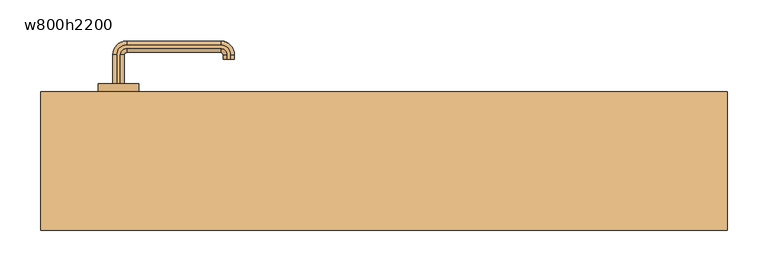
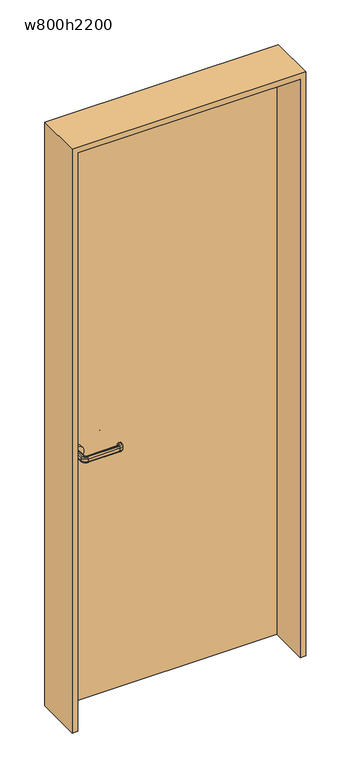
"""IFC4 building model written with IfcOpenShell, lengths in millimetres: door geometry, 片開き : w800h2200."""

from ifc_helpers import new_model, si_unit, point, frame, frame_2d, origin, origin_with_axes, place, context, project, spatial, polyline, circle_curve, ellipse_curve, trimmed, segment, composite_curve, outline, extrude, source, transform, mapped, element, save
from ifc_brep_helpers import plane_surface, cylinder_surface, revolved_surface, advanced_brep


def w800h2200_05deb988(model_context):
    return source(origin(), model_context, "Body", "SolidModel", [
        advanced_brep(
        [(-327.0, 95.0, 960.0), (-332.0, 95.0, 955.0), (-332.0, 95.0, 945.0477623), (-327.0, 95.0, 940.0477623), (-323.0, 95.0, 940.0477623), (-318.0, 95.0, 945.0477623), (-318.0, 95.0, 955.0), (-323.0, 95.0, 960.0), (-327.0, 130.0, 960.0), (-332.0, 130.0, 955.0), (-332.0, 130.0, 945.0477623), (-327.0, 130.0, 940.0477623), (-315.0, 142.0, 940.0477623), (-200.0, 142.0, 940.0477623), (-188.0, 130.0, 940.0477623), (-188.0, 125.0, 940.0477623), (-192.0, 125.0, 940.0477623), (-192.0, 130.0, 940.0477623), (-200.0, 138.0, 940.0477623), (-315.0, 138.0, 940.0477623), (-323.0, 130.0, 940.0477623), (-318.0, 130.0, 945.0477623), (-318.0, 130.0, 955.0), (-323.0, 130.0, 960.0), (-315.0, 138.0, 960.0), (-200.0, 138.0, 960.0), (-192.0, 130.0, 960.0), (-192.0, 125.0, 960.0), (-188.0, 125.0, 960.0), (-188.0, 130.0, 960.0), (-200.0, 142.0, 960.0), (-315.0, 142.0, 960.0), (-315.0, 147.0, 955.0), (-315.0, 147.0, 945.0477623), (-315.0, 133.0, 945.0477623), (-315.0, 133.0, 955.0), (-200.0, 147.0, 955.0), (-200.0, 147.0, 945.0477623), (-200.0, 133.0, 945.0477623), (-200.0, 133.0, 955.0), (-183.0, 130.0, 955.0), (-183.0, 130.0, 945.0477623), (-197.0, 130.0, 945.0477623), (-197.0, 130.0, 955.0), (-197.0, 125.0, 955.0), (-197.0, 125.0, 945.0477623), (-183.0, 125.0, 945.0477623), (-183.0, 125.0, 955.0)],
        [
            (0, 1, circle_curve(frame((-327.0, 95.0, 955.0), z_axis=(0.0, -1.0, 0.0), x_axis=(-1.0, 0.0, 0.0)), 5.0)),
            (1, 2),
            (2, 3, circle_curve(frame((-327.0, 95.0, 945.0477623), z_axis=(0.0, -1.0, 0.0), x_axis=(-1.0, 0.0, 0.0)), 5.0)),
            (3, 4),
            (4, 5, circle_curve(frame((-323.0, 95.0, 945.0477623), z_axis=(0.0, -1.0, 0.0), x_axis=(-1.0, 0.0, 0.0)), 5.0)),
            (5, 6),
            (6, 7, circle_curve(frame((-323.0, 95.0, 955.0), z_axis=(0.0, -1.0, 0.0), x_axis=(-1.0, 0.0, 0.0)), 5.0)),
            (7, 0),
            (0, 8),
            (8, 9, circle_curve(frame((-327.0, 130.0, 955.0), z_axis=(0.0, -1.0, 0.0), x_axis=(-1.0, 0.0, 0.0)), 5.0)),
            (9, 1),
            (9, 10),
            (10, 2),
            (10, 11, circle_curve(frame((-327.0, 130.0, 945.0477623), z_axis=(0.0, -1.0, 0.0), x_axis=(-1.0, 0.0, 0.0)), 5.0)),
            (11, 3),
            (11, 12, circle_curve(frame((-315.0, 130.0, 940.0477623), z_axis=(0.0, 0.0, -1.0), x_axis=(-1.0, 0.0, 0.0)), 12.0)),
            (12, 13),
            (13, 14, circle_curve(frame((-200.0, 130.0, 940.0477623), z_axis=(0.0, 0.0, -1.0), x_axis=(0.0, 1.0, 0.0)), 12.0)),
            (14, 15),
            (15, 16),
            (16, 17),
            (17, 18, circle_curve(frame((-200.0, 130.0, 940.0477623), z_axis=(0.0, 0.0, 1.0), x_axis=(0.0, 1.0, 0.0)), 8.0)),
            (18, 19),
            (19, 20, circle_curve(frame((-315.0, 130.0, 940.0477623), z_axis=(0.0, 0.0, 1.0), x_axis=(-1.0, 0.0, 0.0)), 8.0)),
            (20, 4),
            (20, 21, circle_curve(frame((-323.0, 130.0, 945.0477623), z_axis=(0.0, -1.0, 0.0), x_axis=(-1.0, 0.0, 0.0)), 5.0)),
            (21, 5),
            (21, 22),
            (22, 6),
            (22, 23, circle_curve(frame((-323.0, 130.0, 955.0), z_axis=(0.0, -1.0, 0.0), x_axis=(-1.0, 0.0, 0.0)), 5.0)),
            (23, 7),
            (23, 24, circle_curve(frame((-315.0, 130.0, 960.0), z_axis=(0.0, 0.0, -1.0), x_axis=(-1.0, 0.0, 0.0)), 8.0)),
            (24, 25),
            (25, 26, circle_curve(frame((-200.0, 130.0, 960.0), z_axis=(0.0, 0.0, -1.0), x_axis=(0.0, 1.0, 0.0)), 8.0)),
            (26, 27),
            (27, 28),
            (28, 29),
            (29, 30, circle_curve(frame((-200.0, 130.0, 960.0), z_axis=(0.0, 0.0, 1.0), x_axis=(0.0, 1.0, 0.0)), 12.0)),
            (30, 31),
            (31, 8, circle_curve(frame((-315.0, 130.0, 960.0), z_axis=(0.0, 0.0, 1.0), x_axis=(-1.0, 0.0, 0.0)), 12.0)),
            (32, 9, circle_curve(frame((-315.0, 130.0, 955.0), z_axis=(0.0, 0.0, 1.0), x_axis=(-1.0, 0.0, 0.0)), 17.0)),
            (31, 32, circle_curve(frame((-315.0, 142.0, 955.0), z_axis=(-1.0, 0.0, 0.0), x_axis=(0.0, 1.0, 0.0)), 5.0)),
            (33, 10, circle_curve(frame((-315.0, 130.0, 945.0477623), z_axis=(0.0, 0.0, 1.0), x_axis=(-1.0, 0.0, 0.0)), 17.0)),
            (32, 33),
            (33, 12, circle_curve(frame((-315.0, 142.0, 945.0477623), z_axis=(-1.0, 0.0, 0.0), x_axis=(0.0, 1.0, 0.0)), 5.0)),
            (34, 21, circle_curve(frame((-315.0, 130.0, 945.0477623), z_axis=(0.0, 0.0, 1.0), x_axis=(-1.0, 0.0, 0.0)), 3.0)),
            (19, 34, circle_curve(frame((-315.0, 138.0, 945.0477623), z_axis=(-1.0, 0.0, 0.0), x_axis=(0.0, 1.0, 0.0)), 5.0)),
            (35, 22, circle_curve(frame((-315.0, 130.0, 955.0), z_axis=(0.0, 0.0, 1.0), x_axis=(-1.0, 0.0, 0.0)), 3.0)),
            (34, 35),
            (35, 24, circle_curve(frame((-315.0, 138.0, 955.0), z_axis=(-1.0, 0.0, 0.0), x_axis=(0.0, 1.0, 0.0)), 5.0)),
            (30, 36, circle_curve(frame((-200.0, 142.0, 955.0), z_axis=(-1.0, 0.0, 0.0), x_axis=(0.0, 1.0, 0.0)), 5.0)),
            (36, 32),
            (36, 37),
            (37, 33),
            (37, 13, circle_curve(frame((-200.0, 142.0, 945.0477623), z_axis=(-1.0, 0.0, 0.0), x_axis=(0.0, 1.0, 0.0)), 5.0)),
            (18, 38, circle_curve(frame((-200.0, 138.0, 945.0477623), z_axis=(-1.0, 0.0, 0.0), x_axis=(0.0, 1.0, 0.0)), 5.0)),
            (38, 34),
            (38, 39),
            (39, 35),
            (39, 25, circle_curve(frame((-200.0, 138.0, 955.0), z_axis=(-1.0, 0.0, 0.0), x_axis=(0.0, 1.0, 0.0)), 5.0)),
            (40, 36, circle_curve(frame((-200.0, 130.0, 955.0), z_axis=(0.0, 0.0, 1.0), x_axis=(0.0, 1.0, 0.0)), 17.0)),
            (29, 40, circle_curve(frame((-188.0, 130.0, 955.0), z_axis=(0.0, 1.0, 0.0), x_axis=(1.0, 0.0, 0.0)), 5.0)),
            (41, 37, circle_curve(frame((-200.0, 130.0, 945.0477623), z_axis=(0.0, 0.0, 1.0), x_axis=(0.0, 1.0, 0.0)), 17.0)),
            (40, 41),
            (41, 14, circle_curve(frame((-188.0, 130.0, 945.0477623), z_axis=(0.0, 1.0, 0.0), x_axis=(1.0, 0.0, 0.0)), 5.0)),
            (42, 38, circle_curve(frame((-200.0, 130.0, 945.0477623), z_axis=(0.0, 0.0, 1.0), x_axis=(0.0, 1.0, 0.0)), 3.0)),
            (17, 42, circle_curve(frame((-192.0, 130.0, 945.0477623), z_axis=(0.0, 1.0, 0.0), x_axis=(1.0, 0.0, 0.0)), 5.0)),
            (43, 39, circle_curve(frame((-200.0, 130.0, 955.0), z_axis=(0.0, 0.0, 1.0), x_axis=(0.0, 1.0, 0.0)), 3.0)),
            (42, 43),
            (43, 26, circle_curve(frame((-192.0, 130.0, 955.0), z_axis=(0.0, 1.0, 0.0), x_axis=(1.0, 0.0, 0.0)), 5.0)),
            (27, 44, circle_curve(frame((-192.0, 125.0, 955.0), z_axis=(0.0, -1.0, 0.0), x_axis=(1.0, 0.0, 0.0)), 5.0)),
            (44, 45),
            (45, 16, circle_curve(frame((-192.0, 125.0, 945.0477623), z_axis=(0.0, -1.0, 0.0), x_axis=(1.0, 0.0, 0.0)), 5.0)),
            (15, 46, circle_curve(frame((-188.0, 125.0, 945.0477623), z_axis=(0.0, -1.0, 0.0), x_axis=(1.0, 0.0, 0.0)), 5.0)),
            (46, 47),
            (47, 28, circle_curve(frame((-188.0, 125.0, 955.0), z_axis=(0.0, -1.0, 0.0), x_axis=(1.0, 0.0, 0.0)), 5.0)),
            (47, 40),
            (46, 41),
            (45, 42),
            (44, 43),
        ],
        [
            plane_surface(frame((-335.198039, 95.0, 950.0), z_axis=(0.0, -1.0, 0.0), x_axis=(0.0, 0.0, 1.0))),
            cylinder_surface(frame((-327.0, 95.0, 955.0), z_axis=(0.0, -1.0, 0.0), x_axis=(-1.0, 0.0, 0.0)), 5.0),
            plane_surface(frame((-332.0, 95.0, 955.0), z_axis=(-1.0, 0.0, 0.0), x_axis=(0.0, 1.0, 0.0))),
            cylinder_surface(frame((-327.0, 95.0, 945.0477623), z_axis=(0.0, -1.0, 0.0), x_axis=(-1.0, 0.0, 0.0)), 5.0),
            plane_surface(frame((-327.0, 95.0, 940.0477623), z_axis=(0.0, 0.0, -1.0), x_axis=(0.0, 1.0, 0.0))),
            cylinder_surface(frame((-323.0, 95.0, 945.0477623), z_axis=(0.0, -1.0, 0.0), x_axis=(-1.0, 0.0, 0.0)), 5.0),
            plane_surface(frame((-318.0, 95.0, 945.0477623), z_axis=(1.0, 0.0, 0.0), x_axis=(0.0, 1.0, 0.0))),
            cylinder_surface(frame((-323.0, 95.0, 955.0), z_axis=(0.0, -1.0, 0.0), x_axis=(-1.0, 0.0, 0.0)), 5.0),
            plane_surface(frame((-323.0, 95.0, 960.0), z_axis=(0.0, 0.0, 1.0), x_axis=(0.0, 1.0, 0.0))),
            revolved_surface(trimmed(ellipse_curve(frame((-327.0, 130.0, 955.0), z_axis=(0.0, -1.0, 0.0), x_axis=(-1.0, 0.0, 0.0)), 5.0, 5.0), [point((-327.0, 130.0, 960.0))], [point((-332.0, 130.0, 955.0))], True, "CARTESIAN"), (-315.0, 130.0, 950.0), (0.0, 0.0, -1.0)),
            cylinder_surface(frame((-315.0, 130.0, 950.0), z_axis=(0.0, 0.0, -1.0), x_axis=(-1.0, 0.0, 0.0)), 17.0),
            revolved_surface(trimmed(ellipse_curve(frame((-327.0, 130.0, 945.0477623), z_axis=(0.0, -1.0, 0.0), x_axis=(-1.0, 0.0, 0.0)), 5.0, 5.0), [point((-332.0, 130.0, 945.0477623))], [point((-327.0, 130.0, 940.0477623))], True, "CARTESIAN"), (-315.0, 130.0, 950.0), (0.0, 0.0, -1.0)),
            revolved_surface(trimmed(ellipse_curve(frame((-323.0, 130.0, 945.0477623), z_axis=(0.0, -1.0, 0.0), x_axis=(-1.0, 0.0, 0.0)), 5.0, 5.0), [point((-323.0, 130.0, 940.0477623))], [point((-318.0, 130.0, 945.0477623))], True, "CARTESIAN"), (-315.0, 130.0, 950.0), (0.0, 0.0, -1.0)),
            revolved_surface(polyline([(-318.0, 130.0, 945.0477623), (-318.0, 130.0, 955.0)]), (-315.0, 130.0, 950.0), (0.0, 0.0, -1.0)),
            revolved_surface(trimmed(ellipse_curve(frame((-323.0, 130.0, 955.0), z_axis=(0.0, -1.0, 0.0), x_axis=(-1.0, 0.0, 0.0)), 5.0, 5.0), [point((-318.0, 130.0, 955.0))], [point((-323.0, 130.0, 960.0))], True, "CARTESIAN"), (-315.0, 130.0, 950.0), (0.0, 0.0, -1.0)),
            cylinder_surface(frame((-315.0, 142.0, 955.0), z_axis=(-1.0, 0.0, 0.0), x_axis=(0.0, 1.0, 0.0)), 5.0),
            plane_surface(frame((-315.0, 147.0, 955.0), z_axis=(0.0, 1.0, 0.0), x_axis=(1.0, 0.0, 0.0))),
            cylinder_surface(frame((-315.0, 142.0, 945.0477623), z_axis=(-1.0, 0.0, 0.0), x_axis=(0.0, 1.0, 0.0)), 5.0),
            cylinder_surface(frame((-315.0, 138.0, 945.0477623), z_axis=(-1.0, 0.0, 0.0), x_axis=(0.0, 1.0, 0.0)), 5.0),
            plane_surface(frame((-315.0, 133.0, 945.0477623), z_axis=(0.0, -1.0, 0.0), x_axis=(1.0, 0.0, 0.0))),
            cylinder_surface(frame((-315.0, 138.0, 955.0), z_axis=(-1.0, 0.0, 0.0), x_axis=(0.0, 1.0, 0.0)), 5.0),
            revolved_surface(trimmed(ellipse_curve(frame((-200.0, 142.0, 955.0), z_axis=(-1.0, 0.0, 0.0), x_axis=(0.0, 1.0, 0.0)), 5.0, 5.0), [point((-200.0, 142.0, 960.0))], [point((-200.0, 147.0, 955.0))], True, "CARTESIAN"), (-200.0, 130.0, 950.0), (0.0, 0.0, -1.0)),
            cylinder_surface(frame((-200.0, 130.0, 950.0), z_axis=(0.0, 0.0, -1.0), x_axis=(0.0, 1.0, 0.0)), 17.0),
            revolved_surface(trimmed(ellipse_curve(frame((-200.0, 142.0, 945.0477623), z_axis=(-1.0, 0.0, 0.0), x_axis=(0.0, 1.0, 0.0)), 5.0, 5.0), [point((-200.0, 147.0, 945.0477623))], [point((-200.0, 142.0, 940.0477623))], True, "CARTESIAN"), (-200.0, 130.0, 950.0), (0.0, 0.0, -1.0)),
            revolved_surface(trimmed(ellipse_curve(frame((-200.0, 138.0, 945.0477623), z_axis=(-1.0, 0.0, 0.0), x_axis=(0.0, 1.0, 0.0)), 5.0, 5.0), [point((-200.0, 138.0, 940.0477623))], [point((-200.0, 133.0, 945.0477623))], True, "CARTESIAN"), (-200.0, 130.0, 950.0), (0.0, 0.0, -1.0)),
            revolved_surface(polyline([(-200.0, 133.0, 945.0477623), (-200.0, 133.0, 955.0)]), (-200.0, 130.0, 950.0), (0.0, 0.0, -1.0)),
            revolved_surface(trimmed(ellipse_curve(frame((-200.0, 138.0, 955.0), z_axis=(-1.0, 0.0, 0.0), x_axis=(0.0, 1.0, 0.0)), 5.0, 5.0), [point((-200.0, 133.0, 955.0))], [point((-200.0, 138.0, 960.0))], True, "CARTESIAN"), (-200.0, 130.0, 950.0), (0.0, 0.0, -1.0)),
            plane_surface(frame((-200.198039, 125.0, 950.0), z_axis=(0.0, -1.0, 0.0), x_axis=(0.0, 0.0, -1.0))),
            cylinder_surface(frame((-188.0, 130.0, 955.0), z_axis=(0.0, 1.0, 0.0), x_axis=(1.0, 0.0, 0.0)), 5.0),
            plane_surface(frame((-183.0, 130.0, 955.0), z_axis=(1.0, 0.0, 0.0), x_axis=(0.0, -1.0, 0.0))),
            cylinder_surface(frame((-188.0, 130.0, 945.0477623), z_axis=(0.0, 1.0, 0.0), x_axis=(1.0, 0.0, 0.0)), 5.0),
            cylinder_surface(frame((-192.0, 130.0, 945.0477623), z_axis=(0.0, 1.0, 0.0), x_axis=(1.0, 0.0, 0.0)), 5.0),
            plane_surface(frame((-197.0, 130.0, 945.0477623), z_axis=(-1.0, 0.0, 0.0), x_axis=(0.0, -1.0, 0.0))),
            cylinder_surface(frame((-192.0, 130.0, 955.0), z_axis=(0.0, 1.0, 0.0), x_axis=(1.0, 0.0, 0.0)), 5.0),
        ],
        [
            (0, [[1, 2, 3, 4, 5, 6, 7, 8]]),
            (1, [[-1, 9, 10, 11]]),
            (2, [[-2, -11, 12, 13]]),
            (3, [[-3, -13, 14, 15]]),
            (4, [[-4, -15, 16, 17, 18, 19, 20, 21, 22, 23, 24, 25]]),
            (5, [[-5, -25, 26, 27]]),
            (6, [[-6, -27, 28, 29]]),
            (7, [[-7, -29, 30, 31]]),
            (8, [[-8, -31, 32, 33, 34, 35, 36, 37, 38, 39, 40, -9]]),
            (9, [[41, -10, -40, 42]]),
            (10, [[43, -12, -41, 44]]),
            (11, [[-16, -14, -43, 45]]),
            (12, [[46, -26, -24, 47]]),
            (13, [[48, -28, -46, 49]]),
            (14, [[-32, -30, -48, 50]]),
            (15, [[-42, -39, 51, 52]]),
            (16, [[-44, -52, 53, 54]]),
            (17, [[-45, -54, 55, -17]]),
            (18, [[-47, -23, 56, 57]]),
            (19, [[-49, -57, 58, 59]]),
            (20, [[-50, -59, 60, -33]]),
            (21, [[61, -51, -38, 62]]),
            (22, [[63, -53, -61, 64]]),
            (23, [[-18, -55, -63, 65]]),
            (24, [[66, -56, -22, 67]]),
            (25, [[68, -58, -66, 69]]),
            (26, [[-34, -60, -68, 70]]),
            (27, [[-36, 71, 72, 73, -20, 74, 75, 76]]),
            (28, [[-62, -37, -76, 77]]),
            (29, [[-64, -77, -75, 78]]),
            (30, [[-65, -78, -74, -19]]),
            (31, [[-67, -21, -73, 79]]),
            (32, [[-69, -79, -72, 80]]),
            (33, [[-70, -80, -71, -35]]),
        ],
    ),
        advanced_brep(
        [(-323.0, 50.0, 940.0), (-327.0, 50.0, 940.0), (-332.0, 50.0, 945.0), (-332.0, 50.0, 955.0), (-327.0, 50.0, 960.0), (-323.0, 50.0, 960.0), (-318.0, 50.0, 955.0), (-318.0, 50.0, 945.0), (-323.0, 15.0, 940.0), (-315.0, 7.0, 940.0), (-200.0, 7.0, 940.0), (-192.0, 15.0, 940.0), (-192.0, 20.0, 940.0), (-188.0, 20.0, 940.0), (-188.0, 15.0, 940.0), (-200.0, 3.0, 940.0), (-315.0, 3.0, 940.0), (-327.0, 15.0, 940.0), (-332.0, 15.0, 945.0), (-332.0, 15.0, 955.0), (-327.0, 15.0, 960.0), (-315.0, 3.0, 960.0), (-200.0, 3.0, 960.0), (-188.0, 15.0, 960.0), (-188.0, 20.0, 960.0), (-192.0, 20.0, 960.0), (-192.0, 15.0, 960.0), (-200.0, 7.0, 960.0), (-315.0, 7.0, 960.0), (-323.0, 15.0, 960.0), (-318.0, 15.0, 955.0), (-318.0, 15.0, 945.0), (-315.0, -2.0, 945.0), (-315.0, -2.0, 955.0), (-315.0, 12.0, 955.0), (-315.0, 12.0, 945.0), (-200.0, -2.0, 945.0), (-200.0, -2.0, 955.0), (-200.0, 12.0, 955.0), (-200.0, 12.0, 945.0), (-183.0, 15.0, 945.0), (-183.0, 15.0, 955.0), (-197.0, 15.0, 955.0), (-197.0, 15.0, 945.0), (-197.0, 20.0, 945.0), (-197.0, 20.0, 955.0), (-183.0, 20.0, 955.0), (-183.0, 20.0, 945.0)],
        [
            (0, 1),
            (1, 2, circle_curve(frame((-327.0, 50.0, 945.0), z_axis=(0.0, 1.0, 0.0), x_axis=(1.0, 0.0, 0.0)), 5.0)),
            (2, 3),
            (3, 4, circle_curve(frame((-327.0, 50.0, 955.0), z_axis=(0.0, 1.0, 0.0), x_axis=(1.0, 0.0, 0.0)), 5.0)),
            (4, 5),
            (5, 6, circle_curve(frame((-323.0, 50.0, 955.0), z_axis=(0.0, 1.0, 0.0), x_axis=(1.0, 0.0, 0.0)), 5.0)),
            (6, 7),
            (7, 0, circle_curve(frame((-323.0, 50.0, 945.0), z_axis=(0.0, 1.0, 0.0), x_axis=(1.0, 0.0, 0.0)), 5.0)),
            (0, 8),
            (8, 9, circle_curve(frame((-315.0, 15.0, 940.0), z_axis=(0.0, 0.0, 1.0), x_axis=(-1.0, 0.0, 0.0)), 8.0)),
            (9, 10),
            (10, 11, circle_curve(frame((-200.0, 15.0, 940.0), z_axis=(0.0, 0.0, 1.0), x_axis=(0.0, -1.0, 0.0)), 8.0)),
            (11, 12),
            (12, 13),
            (13, 14),
            (14, 15, circle_curve(frame((-200.0, 15.0, 940.0), z_axis=(0.0, 0.0, -1.0), x_axis=(0.0, -1.0, 0.0)), 12.0)),
            (15, 16),
            (16, 17, circle_curve(frame((-315.0, 15.0, 940.0), z_axis=(0.0, 0.0, -1.0), x_axis=(-1.0, 0.0, 0.0)), 12.0)),
            (17, 1),
            (17, 18, circle_curve(frame((-327.0, 15.0, 945.0), z_axis=(0.0, 1.0, 0.0), x_axis=(1.0, 0.0, 0.0)), 5.0)),
            (18, 2),
            (18, 19),
            (19, 3),
            (19, 20, circle_curve(frame((-327.0, 15.0, 955.0), z_axis=(0.0, 1.0, 0.0), x_axis=(1.0, 0.0, 0.0)), 5.0)),
            (20, 4),
            (20, 21, circle_curve(frame((-315.0, 15.0, 960.0), z_axis=(0.0, 0.0, 1.0), x_axis=(-1.0, 0.0, 0.0)), 12.0)),
            (21, 22),
            (22, 23, circle_curve(frame((-200.0, 15.0, 960.0), z_axis=(0.0, 0.0, 1.0), x_axis=(0.0, -1.0, 0.0)), 12.0)),
            (23, 24),
            (24, 25),
            (25, 26),
            (26, 27, circle_curve(frame((-200.0, 15.0, 960.0), z_axis=(0.0, 0.0, -1.0), x_axis=(0.0, -1.0, 0.0)), 8.0)),
            (27, 28),
            (28, 29, circle_curve(frame((-315.0, 15.0, 960.0), z_axis=(0.0, 0.0, -1.0), x_axis=(-1.0, 0.0, 0.0)), 8.0)),
            (29, 5),
            (29, 30, circle_curve(frame((-323.0, 15.0, 955.0), z_axis=(0.0, 1.0, 0.0), x_axis=(1.0, 0.0, 0.0)), 5.0)),
            (30, 6),
            (30, 31),
            (31, 7),
            (31, 8, circle_curve(frame((-323.0, 15.0, 945.0), z_axis=(0.0, 1.0, 0.0), x_axis=(1.0, 0.0, 0.0)), 5.0)),
            (32, 18, circle_curve(frame((-315.0, 15.0, 945.0), z_axis=(0.0, 0.0, -1.0), x_axis=(-1.0, 0.0, 0.0)), 17.0)),
            (16, 32, circle_curve(frame((-315.0, 3.0, 945.0), z_axis=(-1.0, 0.0, 0.0), x_axis=(0.0, 1.0, 0.0)), 5.0)),
            (33, 19, circle_curve(frame((-315.0, 15.0, 955.0), z_axis=(0.0, 0.0, -1.0), x_axis=(-1.0, 0.0, 0.0)), 17.0)),
            (32, 33),
            (33, 21, circle_curve(frame((-315.0, 3.0, 955.0), z_axis=(-1.0, 0.0, 0.0), x_axis=(0.0, 1.0, 0.0)), 5.0)),
            (34, 30, circle_curve(frame((-315.0, 15.0, 955.0), z_axis=(0.0, 0.0, -1.0), x_axis=(-1.0, 0.0, 0.0)), 3.0)),
            (28, 34, circle_curve(frame((-315.0, 7.0, 955.0), z_axis=(-1.0, 0.0, 0.0), x_axis=(0.0, 1.0, 0.0)), 5.0)),
            (35, 31, circle_curve(frame((-315.0, 15.0, 945.0), z_axis=(0.0, 0.0, -1.0), x_axis=(-1.0, 0.0, 0.0)), 3.0)),
            (34, 35),
            (35, 9, circle_curve(frame((-315.0, 7.0, 945.0), z_axis=(-1.0, 0.0, 0.0), x_axis=(0.0, 1.0, 0.0)), 5.0)),
            (15, 36, circle_curve(frame((-200.0, 3.0, 945.0), z_axis=(-1.0, 0.0, 0.0), x_axis=(0.0, 1.0, 0.0)), 5.0)),
            (36, 32),
            (36, 37),
            (37, 33),
            (37, 22, circle_curve(frame((-200.0, 3.0, 955.0), z_axis=(-1.0, 0.0, 0.0), x_axis=(0.0, 1.0, 0.0)), 5.0)),
            (27, 38, circle_curve(frame((-200.0, 7.0, 955.0), z_axis=(-1.0, 0.0, 0.0), x_axis=(0.0, 1.0, 0.0)), 5.0)),
            (38, 34),
            (38, 39),
            (39, 35),
            (39, 10, circle_curve(frame((-200.0, 7.0, 945.0), z_axis=(-1.0, 0.0, 0.0), x_axis=(0.0, 1.0, 0.0)), 5.0)),
            (40, 36, circle_curve(frame((-200.0, 15.0, 945.0), z_axis=(0.0, 0.0, -1.0), x_axis=(0.0, -1.0, 0.0)), 17.0)),
            (14, 40, circle_curve(frame((-188.0, 15.0, 945.0), z_axis=(0.0, -1.0, 0.0), x_axis=(-1.0, 0.0, 0.0)), 5.0)),
            (41, 37, circle_curve(frame((-200.0, 15.0, 955.0), z_axis=(0.0, 0.0, -1.0), x_axis=(0.0, -1.0, 0.0)), 17.0)),
            (40, 41),
            (41, 23, circle_curve(frame((-188.0, 15.0, 955.0), z_axis=(0.0, -1.0, 0.0), x_axis=(-1.0, 0.0, 0.0)), 5.0)),
            (42, 38, circle_curve(frame((-200.0, 15.0, 955.0), z_axis=(0.0, 0.0, -1.0), x_axis=(0.0, -1.0, 0.0)), 3.0)),
            (26, 42, circle_curve(frame((-192.0, 15.0, 955.0), z_axis=(0.0, -1.0, 0.0), x_axis=(-1.0, 0.0, 0.0)), 5.0)),
            (43, 39, circle_curve(frame((-200.0, 15.0, 945.0), z_axis=(0.0, 0.0, -1.0), x_axis=(0.0, -1.0, 0.0)), 3.0)),
            (42, 43),
            (43, 11, circle_curve(frame((-192.0, 15.0, 945.0), z_axis=(0.0, -1.0, 0.0), x_axis=(-1.0, 0.0, 0.0)), 5.0)),
            (12, 44, circle_curve(frame((-192.0, 20.0, 945.0), z_axis=(0.0, 1.0, 0.0), x_axis=(-1.0, 0.0, 0.0)), 5.0)),
            (44, 45),
            (45, 25, circle_curve(frame((-192.0, 20.0, 955.0), z_axis=(0.0, 1.0, 0.0), x_axis=(-1.0, 0.0, 0.0)), 5.0)),
            (24, 46, circle_curve(frame((-188.0, 20.0, 955.0), z_axis=(0.0, 1.0, 0.0), x_axis=(-1.0, 0.0, 0.0)), 5.0)),
            (46, 47),
            (47, 13, circle_curve(frame((-188.0, 20.0, 945.0), z_axis=(0.0, 1.0, 0.0), x_axis=(-1.0, 0.0, 0.0)), 5.0)),
            (47, 40),
            (46, 41),
            (45, 42),
            (44, 43),
        ],
        [
            plane_surface(frame((-335.198039, 50.0, 950.0), z_axis=(0.0, 1.0, 0.0), x_axis=(0.0, 0.0, -1.0))),
            plane_surface(frame((-323.0, 50.0, 940.0), z_axis=(0.0, 0.0, -1.0), x_axis=(0.0, -1.0, 0.0))),
            cylinder_surface(frame((-327.0, 50.0, 945.0), z_axis=(0.0, 1.0, 0.0), x_axis=(1.0, 0.0, 0.0)), 5.0),
            plane_surface(frame((-332.0, 50.0, 945.0), z_axis=(-1.0, 0.0, 0.0), x_axis=(0.0, -1.0, 0.0))),
            cylinder_surface(frame((-327.0, 50.0, 955.0), z_axis=(0.0, 1.0, 0.0), x_axis=(1.0, 0.0, 0.0)), 5.0),
            plane_surface(frame((-327.0, 50.0, 960.0), z_axis=(0.0, 0.0, 1.0), x_axis=(0.0, -1.0, 0.0))),
            cylinder_surface(frame((-323.0, 50.0, 955.0), z_axis=(0.0, 1.0, 0.0), x_axis=(1.0, 0.0, 0.0)), 5.0),
            plane_surface(frame((-318.0, 50.0, 955.0), z_axis=(1.0, 0.0, 0.0), x_axis=(0.0, -1.0, 0.0))),
            cylinder_surface(frame((-323.0, 50.0, 945.0), z_axis=(0.0, 1.0, 0.0), x_axis=(1.0, 0.0, 0.0)), 5.0),
            revolved_surface(trimmed(ellipse_curve(frame((-327.0, 15.0, 945.0), z_axis=(0.0, 1.0, 0.0), x_axis=(1.0, 0.0, 0.0)), 5.0, 5.0), [point((-327.0, 15.0, 940.0))], [point((-332.0, 15.0, 945.0))], True, "CARTESIAN"), (-315.0, 15.0, 950.0), (0.0, 0.0, 1.0)),
            cylinder_surface(frame((-315.0, 15.0, 950.0), z_axis=(0.0, 0.0, 1.0), x_axis=(-1.0, 0.0, 0.0)), 17.0),
            revolved_surface(trimmed(ellipse_curve(frame((-327.0, 15.0, 955.0), z_axis=(0.0, 1.0, 0.0), x_axis=(1.0, 0.0, 0.0)), 5.0, 5.0), [point((-332.0, 15.0, 955.0))], [point((-327.0, 15.0, 960.0))], True, "CARTESIAN"), (-315.0, 15.0, 950.0), (0.0, 0.0, 1.0)),
            revolved_surface(trimmed(ellipse_curve(frame((-323.0, 15.0, 955.0), z_axis=(0.0, 1.0, 0.0), x_axis=(1.0, 0.0, 0.0)), 5.0, 5.0), [point((-323.0, 15.0, 960.0))], [point((-318.0, 15.0, 955.0))], True, "CARTESIAN"), (-315.0, 15.0, 950.0), (0.0, 0.0, 1.0)),
            revolved_surface(polyline([(-318.0, 15.0, 955.0), (-318.0, 15.0, 945.0)]), (-315.0, 15.0, 950.0), (0.0, 0.0, 1.0)),
            revolved_surface(trimmed(ellipse_curve(frame((-323.0, 15.0, 945.0), z_axis=(0.0, 1.0, 0.0), x_axis=(1.0, 0.0, 0.0)), 5.0, 5.0), [point((-318.0, 15.0, 945.0))], [point((-323.0, 15.0, 940.0))], True, "CARTESIAN"), (-315.0, 15.0, 950.0), (0.0, 0.0, 1.0)),
            cylinder_surface(frame((-315.0, 3.0, 945.0), z_axis=(-1.0, 0.0, 0.0), x_axis=(0.0, 1.0, 0.0)), 5.0),
            plane_surface(frame((-315.0, -2.0, 945.0), z_axis=(0.0, -1.0, 0.0), x_axis=(1.0, 0.0, 0.0))),
            cylinder_surface(frame((-315.0, 3.0, 955.0), z_axis=(-1.0, 0.0, 0.0), x_axis=(0.0, 1.0, 0.0)), 5.0),
            cylinder_surface(frame((-315.0, 7.0, 955.0), z_axis=(-1.0, 0.0, 0.0), x_axis=(0.0, 1.0, 0.0)), 5.0),
            plane_surface(frame((-315.0, 12.0, 955.0), z_axis=(0.0, 1.0, 0.0), x_axis=(1.0, 0.0, 0.0))),
            cylinder_surface(frame((-315.0, 7.0, 945.0), z_axis=(-1.0, 0.0, 0.0), x_axis=(0.0, 1.0, 0.0)), 5.0),
            revolved_surface(trimmed(ellipse_curve(frame((-200.0, 3.0, 945.0), z_axis=(-1.0, 0.0, 0.0), x_axis=(0.0, 1.0, 0.0)), 5.0, 5.0), [point((-200.0, 3.0, 940.0))], [point((-200.0, -2.0, 945.0))], True, "CARTESIAN"), (-200.0, 15.0, 950.0), (0.0, 0.0, 1.0)),
            cylinder_surface(frame((-200.0, 15.0, 950.0), z_axis=(0.0, 0.0, 1.0), x_axis=(0.0, -1.0, 0.0)), 17.0),
            revolved_surface(trimmed(ellipse_curve(frame((-200.0, 3.0, 955.0), z_axis=(-1.0, 0.0, 0.0), x_axis=(0.0, 1.0, 0.0)), 5.0, 5.0), [point((-200.0, -2.0, 955.0))], [point((-200.0, 3.0, 960.0))], True, "CARTESIAN"), (-200.0, 15.0, 950.0), (0.0, 0.0, 1.0)),
            revolved_surface(trimmed(ellipse_curve(frame((-200.0, 7.0, 955.0), z_axis=(-1.0, 0.0, 0.0), x_axis=(0.0, 1.0, 0.0)), 5.0, 5.0), [point((-200.0, 7.0, 960.0))], [point((-200.0, 12.0, 955.0))], True, "CARTESIAN"), (-200.0, 15.0, 950.0), (0.0, 0.0, 1.0)),
            revolved_surface(polyline([(-200.0, 12.0, 955.0), (-200.0, 12.0, 945.0)]), (-200.0, 15.0, 950.0), (0.0, 0.0, 1.0)),
            revolved_surface(trimmed(ellipse_curve(frame((-200.0, 7.0, 945.0), z_axis=(-1.0, 0.0, 0.0), x_axis=(0.0, 1.0, 0.0)), 5.0, 5.0), [point((-200.0, 12.0, 945.0))], [point((-200.0, 7.0, 940.0))], True, "CARTESIAN"), (-200.0, 15.0, 950.0), (0.0, 0.0, 1.0)),
            plane_surface(frame((-200.198039, 20.0, 950.0), z_axis=(0.0, 1.0, 0.0), x_axis=(0.0, 0.0, 1.0))),
            cylinder_surface(frame((-188.0, 15.0, 945.0), z_axis=(0.0, -1.0, 0.0), x_axis=(-1.0, 0.0, 0.0)), 5.0),
            plane_surface(frame((-183.0, 15.0, 945.0), z_axis=(1.0, 0.0, 0.0), x_axis=(0.0, 1.0, 0.0))),
            cylinder_surface(frame((-188.0, 15.0, 955.0), z_axis=(0.0, -1.0, 0.0), x_axis=(-1.0, 0.0, 0.0)), 5.0),
            cylinder_surface(frame((-192.0, 15.0, 955.0), z_axis=(0.0, -1.0, 0.0), x_axis=(-1.0, 0.0, 0.0)), 5.0),
            plane_surface(frame((-197.0, 15.0, 955.0), z_axis=(-1.0, 0.0, 0.0), x_axis=(0.0, 1.0, 0.0))),
            cylinder_surface(frame((-192.0, 15.0, 945.0), z_axis=(0.0, -1.0, 0.0), x_axis=(-1.0, 0.0, 0.0)), 5.0),
        ],
        [
            (0, [[1, 2, 3, 4, 5, 6, 7, 8]]),
            (1, [[-1, 9, 10, 11, 12, 13, 14, 15, 16, 17, 18, 19]]),
            (2, [[-2, -19, 20, 21]]),
            (3, [[-3, -21, 22, 23]]),
            (4, [[-4, -23, 24, 25]]),
            (5, [[-5, -25, 26, 27, 28, 29, 30, 31, 32, 33, 34, 35]]),
            (6, [[-6, -35, 36, 37]]),
            (7, [[-7, -37, 38, 39]]),
            (8, [[-8, -39, 40, -9]]),
            (9, [[41, -20, -18, 42]]),
            (10, [[43, -22, -41, 44]]),
            (11, [[-26, -24, -43, 45]]),
            (12, [[46, -36, -34, 47]]),
            (13, [[48, -38, -46, 49]]),
            (14, [[-10, -40, -48, 50]]),
            (15, [[-42, -17, 51, 52]]),
            (16, [[-44, -52, 53, 54]]),
            (17, [[-45, -54, 55, -27]]),
            (18, [[-47, -33, 56, 57]]),
            (19, [[-49, -57, 58, 59]]),
            (20, [[-50, -59, 60, -11]]),
            (21, [[61, -51, -16, 62]]),
            (22, [[63, -53, -61, 64]]),
            (23, [[-28, -55, -63, 65]]),
            (24, [[66, -56, -32, 67]]),
            (25, [[68, -58, -66, 69]]),
            (26, [[-12, -60, -68, 70]]),
            (27, [[71, 72, 73, -30, 74, 75, 76, -14]]),
            (28, [[-62, -15, -76, 77]]),
            (29, [[-64, -77, -75, 78]]),
            (30, [[-65, -78, -74, -29]]),
            (31, [[-67, -31, -73, 79]]),
            (32, [[-69, -79, -72, 80]]),
            (33, [[-70, -80, -71, -13]]),
        ],
    ),
        extrude(outline(composite_curve([segment(trimmed(circle_curve(frame_2d((950.0, -325.0)), 25.0), [point((950.0, -350.0))], [point((950.0, -300.0))], False, "CARTESIAN"), True, "CONTINUOUS"), segment(trimmed(circle_curve(frame_2d((950.0, -325.0)), 25.0), [point((950.0, -300.0))], [point((950.0, -350.0))], False, "CARTESIAN"), True, "CONTINUOUS")], self_intersect=False)), frame((0.0, 85.0, 0.0), z_axis=(0.0, 1.0, 0.0), x_axis=(0.0, 0.0, 1.0)), (0.0, 0.0, 1.0), 10.0),
        extrude(outline(composite_curve([segment(trimmed(circle_curve(frame_2d((950.0, -325.0)), 25.0), [point((950.0, -350.0))], [point((950.0, -300.0))], False, "CARTESIAN"), True, "CONTINUOUS"), segment(trimmed(circle_curve(frame_2d((950.0, -325.0)), 25.0), [point((950.0, -300.0))], [point((950.0, -350.0))], False, "CARTESIAN"), True, "CONTINUOUS")], self_intersect=False)), frame((0.0, 50.0, 0.0), z_axis=(0.0, 1.0, 0.0), x_axis=(0.0, 0.0, 1.0)), (0.0, 0.0, 1.0), 10.0),
        extrude(outline(polyline([(2220.0, -420.0), (0.0, -420.0), (0.0, -400.0), (2200.0, -400.0), (2200.0, 400.0), (0.0, 400.0), (0.0, 420.0), (2220.0, 420.0), (2220.0, -420.0)])), frame((0.0, -85.0, 0.0), z_axis=(0.0, 1.0, 0.0), x_axis=(0.0, 0.0, 1.0)), (0.0, 0.0, 1.0), 170.0),
        extrude(outline(polyline([(400.0, 60.0), (-400.0, 60.0), (-400.0, 85.0), (400.0, 85.0), (400.0, 60.0)])), origin_with_axes(), (0.0, 0.0, 1.0), 2200.0),
    ])


if __name__ == "__main__":
    model = new_model("IFC4")
    model_context = context("Model", 3, world=origin())
    ifc_project = project(units=[si_unit("LENGTHUNIT", "METRE", prefix="MILLI")], contexts=[model_context])
    site = spatial("IfcSite", under=ifc_project)
    building = spatial("IfcBuilding", under=site)
    placement = place(None, origin())
    w800h2200_shape = w800h2200_05deb988(model_context)
    element("IfcDoor", 1, ObjectType="片開き : w800h2200", at=placement, inside=building, context=model_context, shape_type="MappedRepresentation", body=[
        mapped(w800h2200_shape, transform((0.0, 0.0, 0.0), x_axis=(1.0, 0.0, 0.0), y_axis=(0.0, 1.0, 0.0), z_axis=(0.0, 0.0, 1.0))),
    ])
    save(model, "model.ifc")
